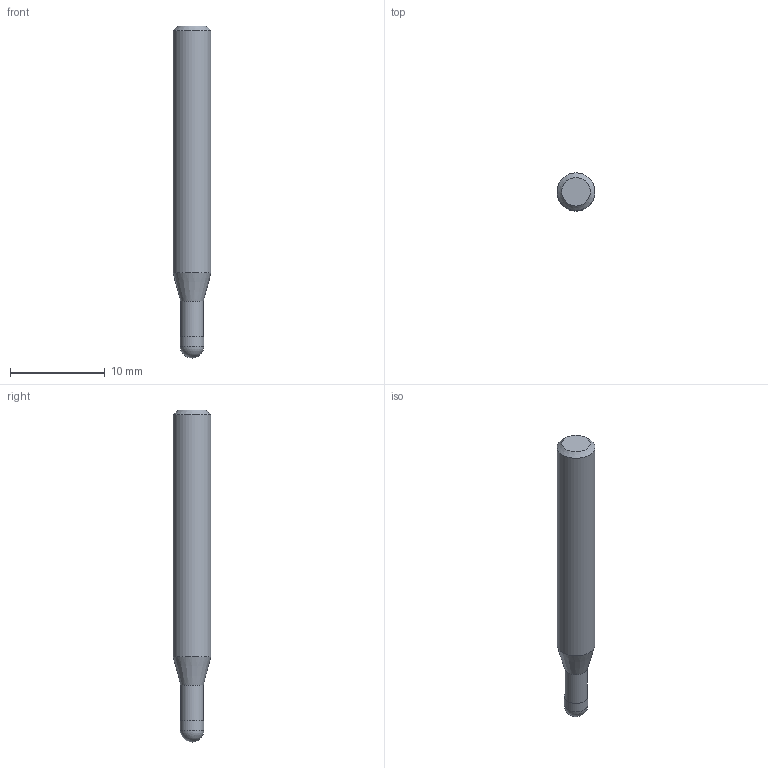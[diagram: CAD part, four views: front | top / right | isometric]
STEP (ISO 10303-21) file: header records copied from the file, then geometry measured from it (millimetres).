
FILE_DESCRIPTION((''),'2;1');
FILE_NAME('C:\Users\nsx150\AppData\Local\Temp\Mastercam 2021\QT8KEW0Y7J\TEMP.step','2021-04-23T11:21:36',(''),(''),'STEP Write','Mastercam 2021 ... CNC Software, Inc.','');
FILE_SCHEMA(('AUTOMOTIVE_DESIGN'));
Length unit declared in the file: millimetre
Products named in the file (1): None
Bounding box: 4 x 4 x 35 mm (x, y, z)
Volume: 376 mm3; surface area: 421.9 mm2
Topology: 2 solids, 2 shells, 9 faces, 14 edges, 8 vertices
Faces by surface type: plane 3, cylinder 3, cone 2, sphere 1
Full cylindrical faces by diameter (mm): 2.4 x1, 2.5 x1, 4 x1
Entity records: 211 total; most frequent: DIRECTION 36, CARTESIAN_POINT 25, AXIS2_PLACEMENT_3D 18, ORIENTED_EDGE 14, EDGE_LOOP 14, STYLED_ITEM 12, ADVANCED_FACE 9, FACE_BOUND 8
